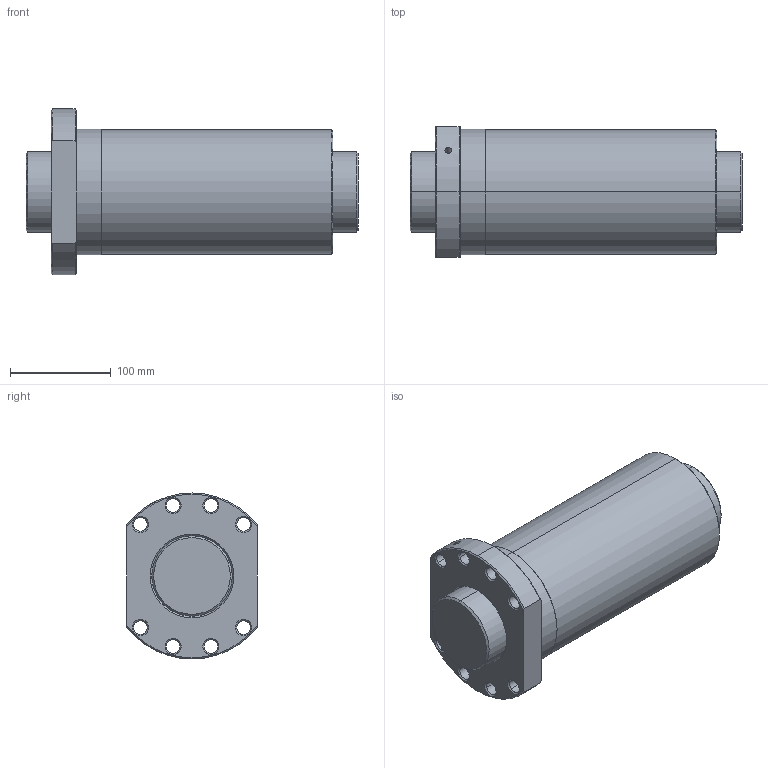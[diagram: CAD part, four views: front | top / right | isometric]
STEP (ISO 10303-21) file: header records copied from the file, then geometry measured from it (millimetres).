
FILE_DESCRIPTION(('no description'),'unknown implementation level');
FILE_NAME('R80_20T4_DDB_330_330_0_023_68.stp',' ',('HIWIN GmbH'),('CADClick - KiM GmbH - www.kimweb.de'),'unknown preprocess','ACIS','unknown authorization');
FILE_SCHEMA(('CONFIG_CONTROL_DESIGN'));
Length unit declared in the file: millimetre
Products named in the file (2): 1; 2
Bounding box: 330 x 130 x 165 mm (x, y, z)
Volume: 3777300.1 mm3; surface area: 307547 mm2
Topology: 2 solids, 2 shells, 90 faces, 204 edges, 119 vertices
Faces by surface type: cone 52, cylinder 30, plane 8
Entity records: 2677 total; most frequent: CARTESIAN_POINT 496, DIRECTION 484, ORIENTED_EDGE 404, EDGE_CURVE 202, AXIS2_PLACEMENT_3D 200, VERTEX_POINT 119, EDGE_LOOP 111, CIRCLE 108
